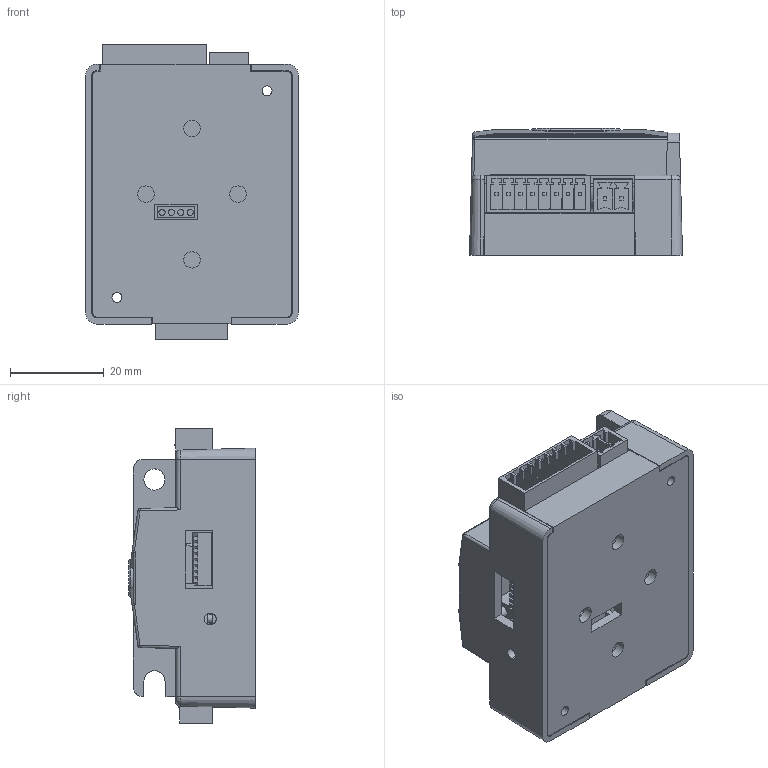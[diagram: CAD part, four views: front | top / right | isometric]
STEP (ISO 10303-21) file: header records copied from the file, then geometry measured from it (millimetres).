
FILE_DESCRIPTION((''),'2;1');
FILE_NAME('DM432M-ALL_ASM','2021-11-05T09:02:02',('chensf'),(''),'CREO PARAMETRIC BY PTC INC, 2019010','CREO PARAMETRIC BY PTC INC, 2019010','');
FILE_SCHEMA(('CONFIG_CONTROL_DESIGN','GEOMETRIC_VALIDATION_PROPERTIES_MIM'));
Length unit declared in the file: millimetre
Products named in the file (13): DM432M-PCB; 1_27CB; 2-LED; 2P-3-5FHT; 8P-2-5FHT; 4P-3-5FHT; DIANRONG21-10; DR; DM432M-PCB-ALL_ASM; DM432M-TOP-02; DM432M-BOT; DM432M-BODY_ASM; DM432M-ALL_ASM
Assembly tree (12 placements, depth 3):
  DM432M-ALL_ASM
    DM432M-PCB-ALL_ASM
      DM432M-PCB
      1_27CB
      2-LED
      2P-3-5FHT
      8P-2-5FHT
      4P-3-5FHT
      DIANRONG21-10
      DR
    DM432M-BODY_ASM
      DM432M-TOP-02
      DM432M-BOT
Bounding box: 45.39 x 27 x 62.7 mm (x, y, z)
Volume: 28311.6 mm3; surface area: 30121.3 mm2
Topology: 10 solids, 10 shells, 1064 faces, 2794 edges, 1823 vertices
Faces by surface type: plane 804, cylinder 207, torus 26, cone 20, sphere 7
Entity records: 45712 total; most frequent: CARTESIAN_POINT 6127, ORIENTED_EDGE 5580, DIRECTION 5345, PRESENTATION_STYLE_ASSIGNMENT 3087, EDGE_CURVE 2790, STYLED_ITEM 2759, CURVE_STYLE 2748, VECTOR 2287
